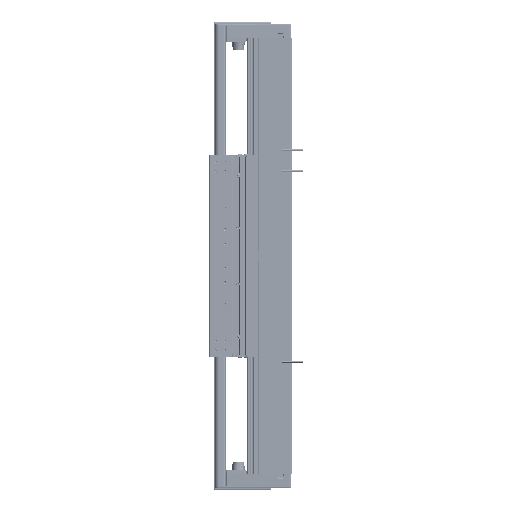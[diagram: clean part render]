
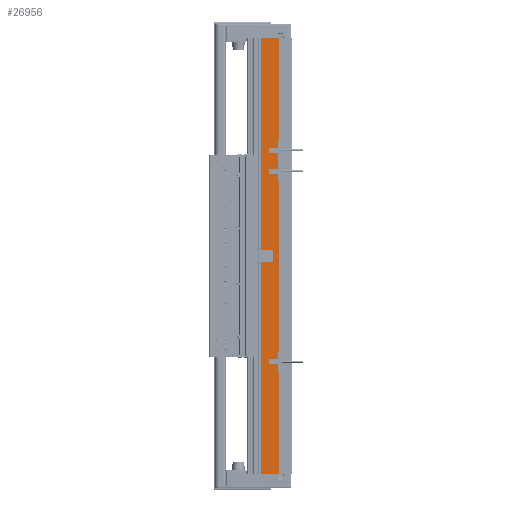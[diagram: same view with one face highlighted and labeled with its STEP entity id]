
A CAD part, left-side view. The second image highlights one B-rep face of the part: STEP entity #26956.
In plain terms, the highlighted planar face has unit normal (-1, 0, 0).
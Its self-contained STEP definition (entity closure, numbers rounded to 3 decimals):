
#1331 = EDGE_CURVE ( 'NONE', #4243, #98988, #87257, .T. ) ;
#4243 = VERTEX_POINT ( 'NONE', #53858 ) ;
#14039 = CARTESIAN_POINT ( 'NONE',  ( -97.5, 14.45, 270. ) ) ;
#16469 = VECTOR ( 'NONE', #42002, 1000. ) ;
#20201 = ORIENTED_EDGE ( 'NONE', *, *, #1331, .F. ) ;
#20311 = DIRECTION ( 'NONE',  ( 0., -1., 0. ) ) ;
#22891 = CARTESIAN_POINT ( 'NONE',  ( -97.5, 14.45, -270. ) ) ;
#26956 = ADVANCED_FACE ( 'NONE', ( #126252 ), #78203, .F. ) ;
#29275 = EDGE_CURVE ( 'NONE', #111862, #61142, #110029, .T. ) ;
#34953 = DIRECTION ( 'NONE',  ( 0., 1., 0. ) ) ;
#36600 = VECTOR ( 'NONE', #60686, 1000. ) ;
#39073 = VECTOR ( 'NONE', #85959, 1000. ) ;
#42002 = DIRECTION ( 'NONE',  ( 0., -1., 0. ) ) ;
#48069 = CARTESIAN_POINT ( 'NONE',  ( -97.5, 36.95, 270. ) ) ;
#49210 = AXIS2_PLACEMENT_3D ( 'NONE', #54911, #66873, #34953 ) ;
#51569 = LINE ( 'NONE', #91593, #117100 ) ;
#53858 = CARTESIAN_POINT ( 'NONE',  ( -97.5, 14.45, 270. ) ) ;
#54911 = CARTESIAN_POINT ( 'NONE',  ( -97.5, 36.95, 270. ) ) ;
#59978 = ORIENTED_EDGE ( 'NONE', *, *, #93799, .F. ) ;
#60335 = EDGE_CURVE ( 'NONE', #61142, #98988, #83312, .T. ) ;
#60686 = DIRECTION ( 'NONE',  ( 0., 0., -1. ) ) ;
#60980 = CARTESIAN_POINT ( 'NONE',  ( -97.5, 36.95, -270. ) ) ;
#61142 = VERTEX_POINT ( 'NONE', #60980 ) ;
#66873 = DIRECTION ( 'NONE',  ( 1., 0., 0. ) ) ;
#69892 = ORIENTED_EDGE ( 'NONE', *, *, #60335, .T. ) ;
#78203 = PLANE ( 'NONE',  #49210 ) ;
#83312 = LINE ( 'NONE', #103952, #16469 ) ;
#83400 = CARTESIAN_POINT ( 'NONE',  ( -97.5, 36.95, 270. ) ) ;
#85959 = DIRECTION ( 'NONE',  ( 0., 0., -1. ) ) ;
#87257 = LINE ( 'NONE', #14039, #39073 ) ;
#91593 = CARTESIAN_POINT ( 'NONE',  ( -97.5, 36.95, 270. ) ) ;
#93799 = EDGE_CURVE ( 'NONE', #111862, #4243, #51569, .T. ) ;
#98988 = VERTEX_POINT ( 'NONE', #22891 ) ;
#103952 = CARTESIAN_POINT ( 'NONE',  ( -97.5, 36.95, -270. ) ) ;
#104182 = ORIENTED_EDGE ( 'NONE', *, *, #29275, .T. ) ;
#110029 = LINE ( 'NONE', #48069, #36600 ) ;
#111862 = VERTEX_POINT ( 'NONE', #83400 ) ;
#117100 = VECTOR ( 'NONE', #20311, 1000. ) ;
#126252 = FACE_OUTER_BOUND ( 'NONE', #126798, .T. ) ;
#126798 = EDGE_LOOP ( 'NONE', ( #69892, #20201, #59978, #104182 ) ) ;
